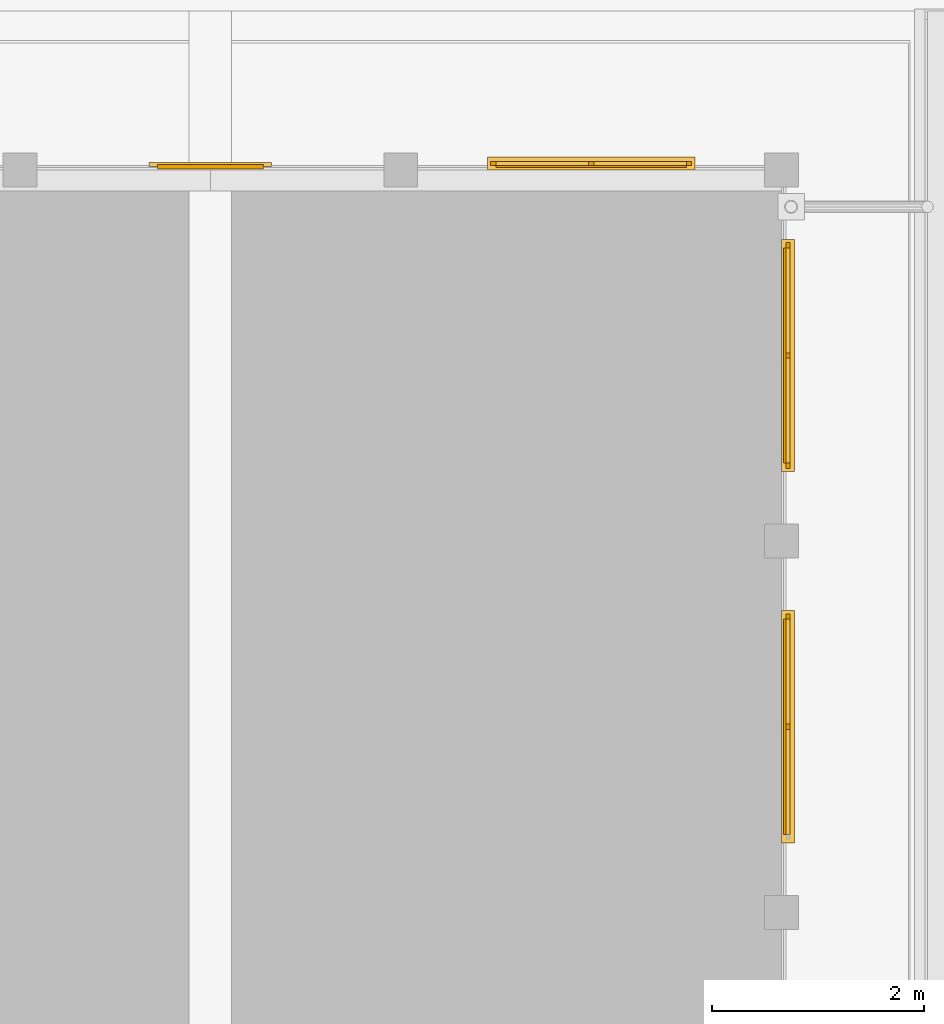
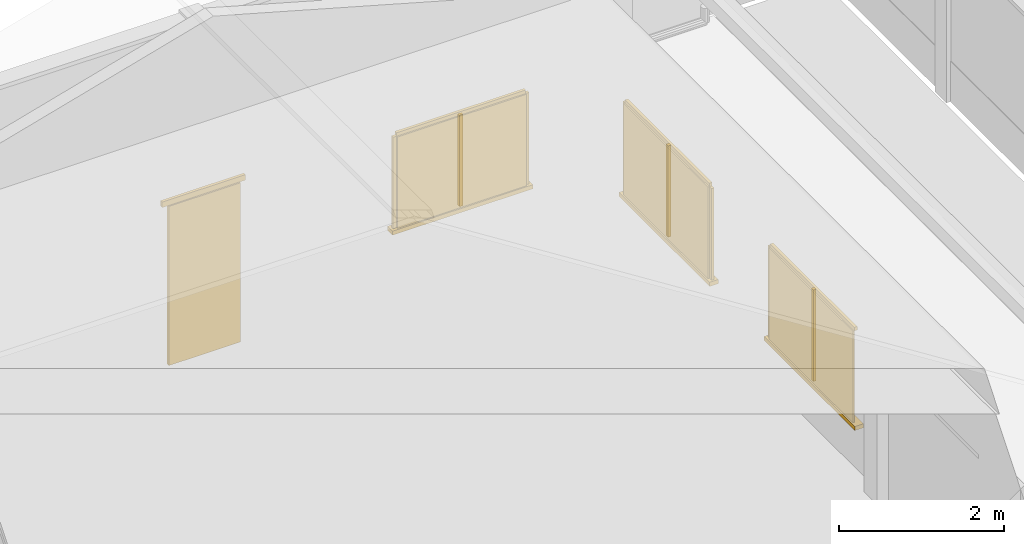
# One storey, part 66 of 151: 17 windows, 2 doors.
"""IFC2X3 building model written with IfcOpenShell, lengths in metres."""

from ifc_helpers import new_model, si_unit, origin, origin_with_axes, place, context, subcontext, project, spatial, faceted_brep, element, save


model = new_model("IFC2X3")

# Units and contexts
model_context = context("Model", 3, precision=1e-05, world=origin_with_axes())
body_context = subcontext(model_context, "Body", "Model", "MODEL_VIEW")
ifc_project = project(units=[si_unit("LENGTHUNIT", "METRE"), si_unit("AREAUNIT", "SQUARE_METRE"), si_unit("VOLUMEUNIT", "CUBIC_METRE"), si_unit("PLANEANGLEUNIT", "RADIAN")], contexts=[model_context])

# Site, building, storey
site_placement = place(None, origin_with_axes())
site = spatial("IfcSite", under=ifc_project, at=site_placement, Name="Predio Los Mangos - Morales, San Martín", CompositionType="ELEMENT")
building_placement = place(site_placement, origin())
building = spatial("IfcBuilding", under=site, at=building_placement, Name="Hogar de Refugio Temporal", CompositionType="ELEMENT")
storey_placement = place(building_placement, origin())
storey = spatial("IfcBuildingStorey", under=building, at=storey_placement, Name="NIVEL 1 (NPT +0.00)", CompositionType="ELEMENT", Elevation=0.0)

# Doors
door_1_placement = place(storey_placement, origin())
element("IfcDoor", 1, at=door_1_placement, inside=storey, Name="E-07_pp", ObjectType="Puerta", context=body_context, shape_type="Brep", body=[
    faceted_brep([(60.6, 127.81, 0.15), (60.6, 127.85, 0.15), (61.6, 127.85, 0.15), (61.6, 127.81, 0.15), (60.6, 127.81, 2.5), (61.6, 127.81, 2.5), (61.6, 127.85, 2.5), (60.6, 127.85, 2.5)], [[[0, 1, 2, 3]], [[4, 5, 6, 7]], [[0, 3, 5, 4]], [[3, 2, 6, 5]], [[2, 1, 7, 6]], [[1, 0, 4, 7]]]),
])
door_2_placement = place(storey_placement, origin())
element("IfcDoor", 2, at=door_2_placement, inside=storey, Name="E-07_pp_marco", ObjectType="Puerta", context=body_context, shape_type="Brep", body=[
    faceted_brep([(60.52, 127.83, 2.5), (60.52, 127.87, 2.5), (61.68, 127.87, 2.5), (61.68, 127.83, 2.5), (60.52, 127.83, 2.58), (61.68, 127.83, 2.58), (61.68, 127.87, 2.58), (60.52, 127.87, 2.58)], [[[0, 1, 2, 3]], [[4, 5, 6, 7]], [[0, 3, 5, 4]], [[3, 2, 6, 5]], [[2, 1, 7, 6]], [[1, 0, 4, 7]]]),
])

# Windows
window_1_placement = place(storey_placement, origin())
element("IfcWindow", 3, at=window_1_placement, inside=storey, Name="E-07_vg2_vid", ObjectType="Ventana", context=body_context, shape_type="Brep", body=[
    faceted_brep([(63.8, 127.82, 1.05), (63.8, 127.84, 1.05), (65.6, 127.84, 1.05), (65.6, 127.82, 1.05), (63.8, 127.82, 2.4), (65.6, 127.82, 2.4), (65.6, 127.84, 2.4), (63.8, 127.84, 2.4)], [[[0, 1, 2, 3]], [[4, 5, 6, 7]], [[0, 3, 5, 4]], [[3, 2, 6, 5]], [[2, 1, 7, 6]], [[1, 0, 4, 7]]]),
])
window_2_placement = place(storey_placement, origin())
element("IfcWindow", 4, at=window_2_placement, inside=storey, Name="E-07_vg2_m", ObjectType="Ventana", context=body_context, shape_type="Brep", body=[
    faceted_brep([(63.75, 127.84, 1.05), (63.75, 127.88, 1.05), (63.8, 127.88, 1.05), (63.8, 127.84, 1.05), (63.75, 127.84, 2.4), (63.8, 127.84, 2.4), (63.8, 127.88, 2.4), (63.75, 127.88, 2.4)], [[[0, 1, 2, 3]], [[4, 5, 6, 7]], [[0, 3, 5, 4]], [[3, 2, 6, 5]], [[2, 1, 7, 6]], [[1, 0, 4, 7]]]),
])
window_3_placement = place(storey_placement, origin())
element("IfcWindow", 5, at=window_3_placement, inside=storey, Name="E-07_vg2_m", ObjectType="Ventana", context=body_context, shape_type="Brep", body=[
    faceted_brep([(65.6, 127.84, 1.05), (65.6, 127.88, 1.05), (65.65, 127.88, 1.05), (65.65, 127.84, 1.05), (65.6, 127.84, 2.4), (65.65, 127.84, 2.4), (65.65, 127.88, 2.4), (65.6, 127.88, 2.4)], [[[0, 1, 2, 3]], [[4, 5, 6, 7]], [[0, 3, 5, 4]], [[3, 2, 6, 5]], [[2, 1, 7, 6]], [[1, 0, 4, 7]]]),
])
window_4_placement = place(storey_placement, origin())
element("IfcWindow", 6, at=window_4_placement, inside=storey, Name="E-07_vg2_m", ObjectType="Ventana", context=body_context, shape_type="Brep", body=[
    faceted_brep([(63.8, 127.84, 2.4), (63.8, 127.88, 2.4), (65.6, 127.88, 2.4), (65.6, 127.84, 2.4), (63.8, 127.84, 2.45), (65.6, 127.84, 2.45), (65.6, 127.88, 2.45), (63.8, 127.88, 2.45)], [[[0, 1, 2, 3]], [[4, 5, 6, 7]], [[0, 3, 5, 4]], [[3, 2, 6, 5]], [[2, 1, 7, 6]], [[1, 0, 4, 7]]]),
])
window_5_placement = place(storey_placement, origin())
element("IfcWindow", 7, at=window_5_placement, inside=storey, Name="E-07_vg2_m", ObjectType="Ventana", context=body_context, shape_type="Brep", body=[
    faceted_brep([(64.675, 127.84, 1.05), (64.675, 127.88, 1.05), (64.725, 127.88, 1.05), (64.725, 127.84, 1.05), (64.675, 127.84, 2.4), (64.725, 127.84, 2.4), (64.725, 127.88, 2.4), (64.675, 127.88, 2.4)], [[[0, 1, 2, 3]], [[4, 5, 6, 7]], [[0, 3, 5, 4]], [[3, 2, 6, 5]], [[2, 1, 7, 6]], [[1, 0, 4, 7]]]),
])
window_6_placement = place(storey_placement, origin())
element("IfcWindow", 8, at=window_6_placement, inside=storey, Name="E-07_vg2_alf", ObjectType="Ventana", context=body_context, shape_type="Brep", body=[
    faceted_brep([(63.72, 127.8, 0.99), (63.72, 127.92, 0.99), (65.68, 127.92, 0.99), (65.68, 127.8, 0.99), (63.72, 127.8, 1.05), (65.68, 127.8, 1.05), (65.68, 127.92, 1.05), (63.72, 127.92, 1.05)], [[[0, 1, 2, 3]], [[4, 5, 6, 7]], [[0, 3, 5, 4]], [[3, 2, 6, 5]], [[2, 1, 7, 6]], [[1, 0, 4, 7]]]),
])
window_7_placement = place(storey_placement, origin())
element("IfcWindow", 9, at=window_7_placement, inside=storey, Name="E-07_v8_vid", ObjectType="Ventana", context=body_context, shape_type="Brep", body=[
    faceted_brep([(66.52, 121.5171, 1.05), (66.52, 123.5529, 1.05), (66.54, 123.5529, 1.05), (66.54, 121.5171, 1.05), (66.52, 121.5171, 2.4), (66.54, 121.5171, 2.4), (66.54, 123.5529, 2.4), (66.52, 123.5529, 2.4)], [[[0, 1, 2, 3]], [[4, 5, 6, 7]], [[0, 3, 5, 4]], [[3, 2, 6, 5]], [[2, 1, 7, 6]], [[1, 0, 4, 7]]]),
])
window_8_placement = place(storey_placement, origin())
element("IfcWindow", 10, at=window_8_placement, inside=storey, Name="E-07_v8_m", ObjectType="Ventana", context=body_context, shape_type="Brep", body=[
    faceted_brep([(66.54, 123.5529, 1.05), (66.54, 123.6029, 1.05), (66.58, 123.6029, 1.05), (66.58, 123.5529, 1.05), (66.54, 123.5529, 2.4), (66.58, 123.5529, 2.4), (66.58, 123.6029, 2.4), (66.54, 123.6029, 2.4)], [[[0, 1, 2, 3]], [[4, 5, 6, 7]], [[0, 3, 5, 4]], [[3, 2, 6, 5]], [[2, 1, 7, 6]], [[1, 0, 4, 7]]]),
])
window_9_placement = place(storey_placement, origin())
element("IfcWindow", 11, at=window_9_placement, inside=storey, Name="E-07_v8_m", ObjectType="Ventana", context=body_context, shape_type="Brep", body=[
    faceted_brep([(66.54, 121.5171, 2.4), (66.54, 123.5529, 2.4), (66.58, 123.5529, 2.4), (66.58, 121.5171, 2.4), (66.54, 121.5171, 2.45), (66.58, 121.5171, 2.45), (66.58, 123.5529, 2.45), (66.54, 123.5529, 2.45)], [[[0, 1, 2, 3]], [[4, 5, 6, 7]], [[0, 3, 5, 4]], [[3, 2, 6, 5]], [[2, 1, 7, 6]], [[1, 0, 4, 7]]]),
])
window_10_placement = place(storey_placement, origin())
element("IfcWindow", 12, at=window_10_placement, inside=storey, Name="E-07_v8_m", ObjectType="Ventana", context=body_context, shape_type="Brep", body=[
    faceted_brep([(66.54, 122.51, 1.05), (66.54, 122.56, 1.05), (66.58, 122.56, 1.05), (66.58, 122.51, 1.05), (66.54, 122.51, 2.4), (66.58, 122.51, 2.4), (66.58, 122.56, 2.4), (66.54, 122.56, 2.4)], [[[0, 1, 2, 3]], [[4, 5, 6, 7]], [[0, 3, 5, 4]], [[3, 2, 6, 5]], [[2, 1, 7, 6]], [[1, 0, 4, 7]]]),
])
window_11_placement = place(storey_placement, origin())
element("IfcWindow", 13, at=window_11_placement, inside=storey, Name="E-07_v8_alf", ObjectType="Ventana", context=body_context, shape_type="Brep", body=[
    faceted_brep([(66.5, 121.4371, 0.99), (66.5, 123.6329, 0.99), (66.62, 123.6329, 0.99), (66.62, 121.4371, 0.99), (66.5, 121.4371, 1.05), (66.62, 121.4371, 1.05), (66.62, 123.6329, 1.05), (66.5, 123.6329, 1.05)], [[[0, 1, 2, 3]], [[4, 5, 6, 7]], [[0, 3, 5, 4]], [[3, 2, 6, 5]], [[2, 1, 7, 6]], [[1, 0, 4, 7]]]),
])
window_12_placement = place(storey_placement, origin())
element("IfcWindow", 14, at=window_12_placement, inside=storey, Name="E-07_v9_vid", ObjectType="Ventana", context=body_context, shape_type="Brep", body=[
    faceted_brep([(66.52, 125.0271, 1.05), (66.52, 127.0629, 1.05), (66.54, 127.0629, 1.05), (66.54, 125.0271, 1.05), (66.52, 125.0271, 2.4), (66.54, 125.0271, 2.4), (66.54, 127.0629, 2.4), (66.52, 127.0629, 2.4)], [[[0, 1, 2, 3]], [[4, 5, 6, 7]], [[0, 3, 5, 4]], [[3, 2, 6, 5]], [[2, 1, 7, 6]], [[1, 0, 4, 7]]]),
])
window_13_placement = place(storey_placement, origin())
element("IfcWindow", 15, at=window_13_placement, inside=storey, Name="E-07_v9_m", ObjectType="Ventana", context=body_context, shape_type="Brep", body=[
    faceted_brep([(66.54, 124.9771, 1.05), (66.54, 125.0271, 1.05), (66.58, 125.0271, 1.05), (66.58, 124.9771, 1.05), (66.54, 124.9771, 2.4), (66.58, 124.9771, 2.4), (66.58, 125.0271, 2.4), (66.54, 125.0271, 2.4)], [[[0, 1, 2, 3]], [[4, 5, 6, 7]], [[0, 3, 5, 4]], [[3, 2, 6, 5]], [[2, 1, 7, 6]], [[1, 0, 4, 7]]]),
])
window_14_placement = place(storey_placement, origin())
element("IfcWindow", 16, at=window_14_placement, inside=storey, Name="E-07_v9_m", ObjectType="Ventana", context=body_context, shape_type="Brep", body=[
    faceted_brep([(66.54, 127.0629, 1.05), (66.54, 127.1129, 1.05), (66.58, 127.1129, 1.05), (66.58, 127.0629, 1.05), (66.54, 127.0629, 2.4), (66.58, 127.0629, 2.4), (66.58, 127.1129, 2.4), (66.54, 127.1129, 2.4)], [[[0, 1, 2, 3]], [[4, 5, 6, 7]], [[0, 3, 5, 4]], [[3, 2, 6, 5]], [[2, 1, 7, 6]], [[1, 0, 4, 7]]]),
])
window_15_placement = place(storey_placement, origin())
element("IfcWindow", 17, at=window_15_placement, inside=storey, Name="E-07_v9_m", ObjectType="Ventana", context=body_context, shape_type="Brep", body=[
    faceted_brep([(66.54, 125.0271, 2.4), (66.54, 127.0629, 2.4), (66.58, 127.0629, 2.4), (66.58, 125.0271, 2.4), (66.54, 125.0271, 2.45), (66.58, 125.0271, 2.45), (66.58, 127.0629, 2.45), (66.54, 127.0629, 2.45)], [[[0, 1, 2, 3]], [[4, 5, 6, 7]], [[0, 3, 5, 4]], [[3, 2, 6, 5]], [[2, 1, 7, 6]], [[1, 0, 4, 7]]]),
])
window_16_placement = place(storey_placement, origin())
element("IfcWindow", 18, at=window_16_placement, inside=storey, Name="E-07_v9_m", ObjectType="Ventana", context=body_context, shape_type="Brep", body=[
    faceted_brep([(66.54, 126.02, 1.05), (66.54, 126.07, 1.05), (66.58, 126.07, 1.05), (66.58, 126.02, 1.05), (66.54, 126.02, 2.4), (66.58, 126.02, 2.4), (66.58, 126.07, 2.4), (66.54, 126.07, 2.4)], [[[0, 1, 2, 3]], [[4, 5, 6, 7]], [[0, 3, 5, 4]], [[3, 2, 6, 5]], [[2, 1, 7, 6]], [[1, 0, 4, 7]]]),
])
window_17_placement = place(storey_placement, origin())
element("IfcWindow", 19, at=window_17_placement, inside=storey, Name="E-07_v9_alf", ObjectType="Ventana", context=body_context, shape_type="Brep", body=[
    faceted_brep([(66.5, 124.9471, 0.99), (66.5, 127.1429, 0.99), (66.62, 127.1429, 0.99), (66.62, 124.9471, 0.99), (66.5, 124.9471, 1.05), (66.62, 124.9471, 1.05), (66.62, 127.1429, 1.05), (66.5, 127.1429, 1.05)], [[[0, 1, 2, 3]], [[4, 5, 6, 7]], [[0, 3, 5, 4]], [[3, 2, 6, 5]], [[2, 1, 7, 6]], [[1, 0, 4, 7]]]),
])

save(model, "model.ifc")
